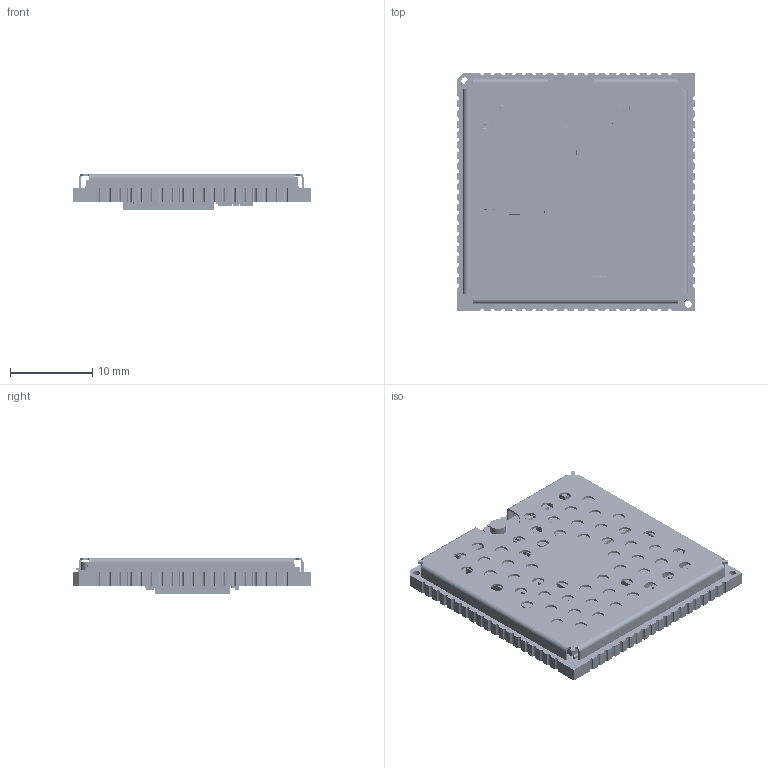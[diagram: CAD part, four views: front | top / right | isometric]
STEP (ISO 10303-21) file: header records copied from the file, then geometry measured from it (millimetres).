
FILE_DESCRIPTION(('Open CASCADE Model'),'2;1');
FILE_NAME('Open CASCADE Shape Model','2016-08-30T23:49:03',('Author'),( 'Open CASCADE'),'Open CASCADE STEP processor 6.8','Open CASCADE 6.8' ,'Unknown');
FILE_SCHEMA(('AUTOMOTIVE_DESIGN { 1 0 10303 214 1 1 1 1 }'));
Length unit declared in the file: millimetre
Products named in the file (361): PCB; Board; SHIELD1; 60001455_shield_imx6ul_REV_A; R58; RESC0603X33; R57; C38; CAPC0603X33; C37; U11; 1199502320; R56; R55; R54; R53; R52; R51; R50; R49; R48; R47; R46; R45; R44; R43; R42; J2; 1119019208; Extruded; 1202503464; 1202503600; 1202503736; 1119612960; Cylinder; 1199504496; D1; 1202503872; 1202504008; R41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
Assembly tree (695 placements, depth 4):
  PCB
    Board
    SHIELD1
      60001455_shield_imx6ul_REV_A
    R58
      RESC0603X33
    R57
      RESC0603X33
    C38
      CAPC0603X33
    C37
      CAPC0603X33
    U11
      1199502320
    R56
      RESC0603X33
    R55
      RESC0603X33
    R54
      RESC0603X33
    R53
      RESC0603X33
    R52
      RESC0603X33
    R51
      RESC0603X33
    R50
      RESC0603X33
    R49
      RESC0603X33
    R48
      RESC0603X33
    R47
      RESC0603X33
    R46
      RESC0603X33
    R45
      RESC0603X33
    R44
      RESC0603X33
    R43
      RESC0603X33
    R42
      RESC0603X33
    J2
      1119019208
        Extruded
      1202503464  x2
        Extruded
      1202503600
        Extruded
      1202503736
        Extruded
      1119612960
        Cylinder
      1199504496
        Cylinder
    D1
      1202503872
        Extruded
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Bounding box: 29 x 29 x 4.36 mm (x, y, z)
Volume: 2007.1 mm3; surface area: 5746.5 mm2
Topology: 1240 solids, 1240 shells, 13200 faces, 31545 edges, 18546 vertices
Faces by surface type: plane 6487, cylinder 4258, sphere 2392, bspline 53, torus 10
Full cylindrical faces by diameter (mm): 0.3 x1, 0.4 x2, 0.5 x1, 0.85 x2, 2 x1
Entity records: 397267 total; most frequent: CARTESIAN_POINT 205897, DIRECTION 28856, ORIENTED_EDGE 17162, PCURVE 17162, DEFINITIONAL_REPRESENTATION 17162, LINE 14253, VECTOR 14253, EDGE_CURVE 8581
